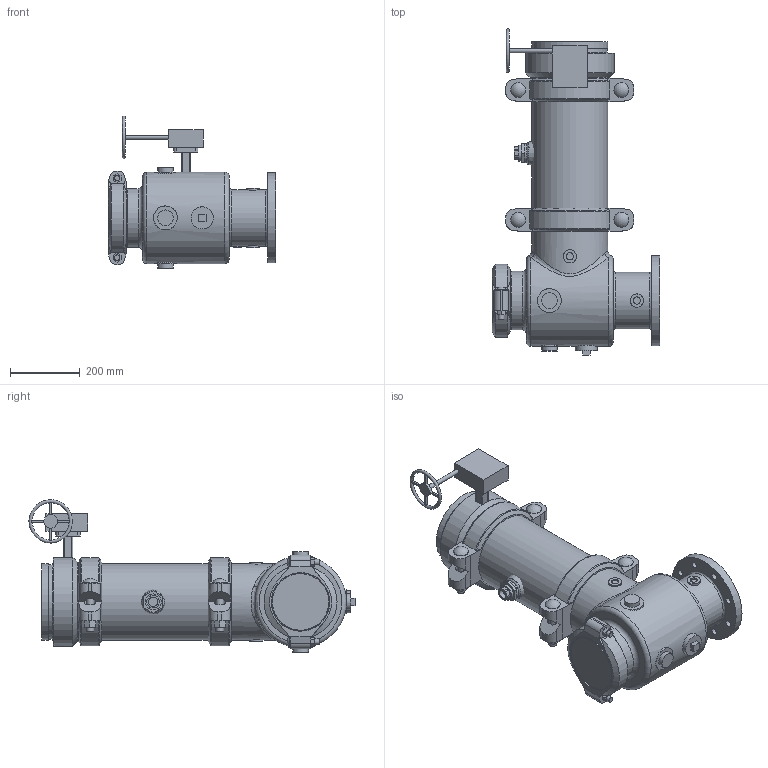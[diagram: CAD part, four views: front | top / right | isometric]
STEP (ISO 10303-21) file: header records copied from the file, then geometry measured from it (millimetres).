
FILE_DESCRIPTION(/* description */ ('VIC SVI PUMP DROP HORZ S/391 (OGSxFLG)','CAx-IF Rec.Pracs.---Representation and Presentation of Product Manufacturing Information (PMI)---4.0---2014-10-13'),/* implementation_level */ '2;1');
FILE_NAME(/* name */ 'C:\Users\kkamble\AppData\Roaming\Autodesk\ApplicationPlugins\Back Up\Victaulic_PN10_Series 391 (OGSxFLG)\Victaulic_PN10_Series 391 (OGSxFLG)_08.0x05.0 (200x125).stp',/* time_stamp */ '2020-11-26T23:45:09+05:00',/* author */ ('kkamble'),/* organization */ ('Victaulic'),/* preprocessor_version */ 'ST-DEVELOPER v17.2',/* originating_system */ 'Autodesk Inventor 2019',/* authorisation */ '');
FILE_SCHEMA (('AP242_MANAGED_MODEL_BASED_3D_ENGINEERING_MIM_LF { 1 0 10303 442 1 1 4 }'));
Length unit declared in the file: inch
Products named in the file (9): 391-08.0x05.0; 731D-08.0x05.0; 731D-08.0x05.0_1; 731D-08.0; 07-06.0; PIPE-08.0; 177N-08.0; 761-08.0; 923-04.0x0.75
Assembly tree (9 placements, depth 3):
  391-08.0x05.0
    731D-08.0x05.0
      731D-08.0x05.0_1
      731D-08.0
      07-06.0
    177N-08.0  x2
    PIPE-08.0
    761-08.0
    923-04.0x0.75
Bounding box: 482.6 x 936.74 x 438.39 mm (x, y, z)
Volume: 17554898.5 mm3; surface area: 2270283 mm2
Topology: 8 solids, 11 shells, 510 faces, 1347 edges, 909 vertices
Faces by surface type: plane 294, cylinder 172, torus 18, cone 16, sphere 6, bspline 4
Full cylindrical faces by diameter (mm): 8.636 x4, 12.446 x1, 12.7 x1, 15.875 x4, 18.009 x8, 20.955 x4, 22.225 x4, 22.86 x1, 26.67 x1, 27.381 x2, 38.1 x4, 39.125 x1, 42.85 x4, 45.72 x3, 45.974 x2, 55.118 x1, 55.626 x1, 63.5 x1, 127 x1, 132.588 x1, 136.906 x1, 146.558 x1, 155.575 x1, 162.814 x1, 163.703 x1, 163.957 x1, 168.275 x5, 193.802 x1, 202.717 x2, 206.375 x2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
Entity records: 15500 total; most frequent: CARTESIAN_POINT 3990, DIRECTION 2329, ORIENTED_EDGE 2196, EDGE_CURVE 1098, AXIS2_PLACEMENT_3D 896, VERTEX_POINT 745, LINE 537, VECTOR 537
